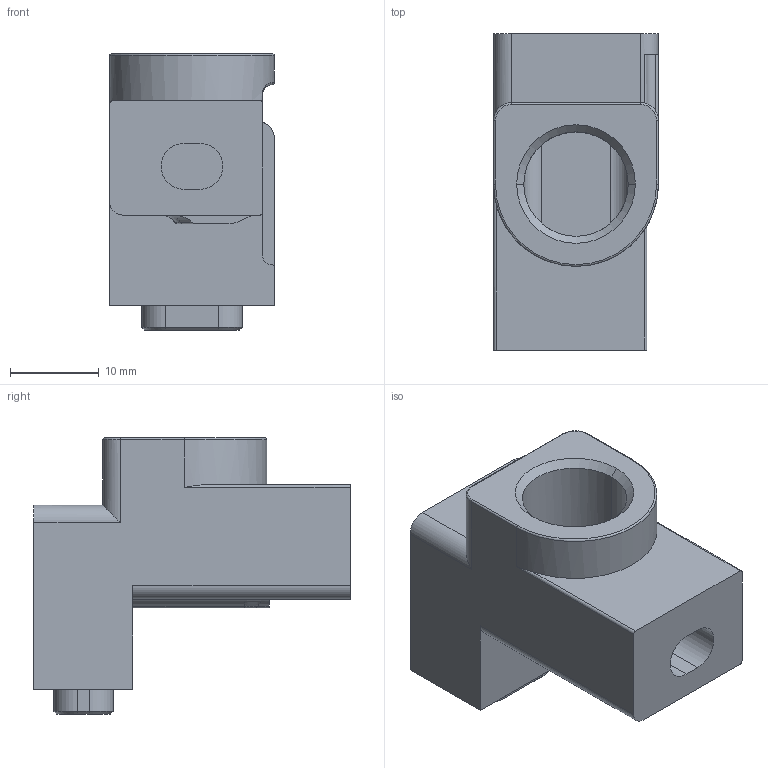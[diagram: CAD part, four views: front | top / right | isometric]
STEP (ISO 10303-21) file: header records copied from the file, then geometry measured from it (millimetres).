
FILE_DESCRIPTION((''),'2;1');
FILE_NAME('134907-6-30001','2026-08-22T09:46:02',('Administrator'),(''),'CREO PARAMETRIC BY PTC INC, 2025010','CREO PARAMETRIC BY PTC INC, 2025010','');
FILE_SCHEMA(('CONFIG_CONTROL_DESIGN'));
Length unit declared in the file: millimetre
Products named in the file (1): 134907-6-30001
Bounding box: 18.6 x 35.75 x 31.2 mm (x, y, z)
Volume: 7780.9 mm3; surface area: 5112.4 mm2
Topology: 1 solids, 1 shells, 122 faces, 319 edges, 203 vertices
Faces by surface type: cylinder 55, plane 54, cone 6, torus 5, bspline 2
Entity records: 4212 total; most frequent: CARTESIAN_POINT 1121, DIRECTION 645, ORIENTED_EDGE 638, EDGE_CURVE 319, AXIS2_PLACEMENT_3D 226, VERTEX_POINT 203, VECTOR 193, LINE 193
